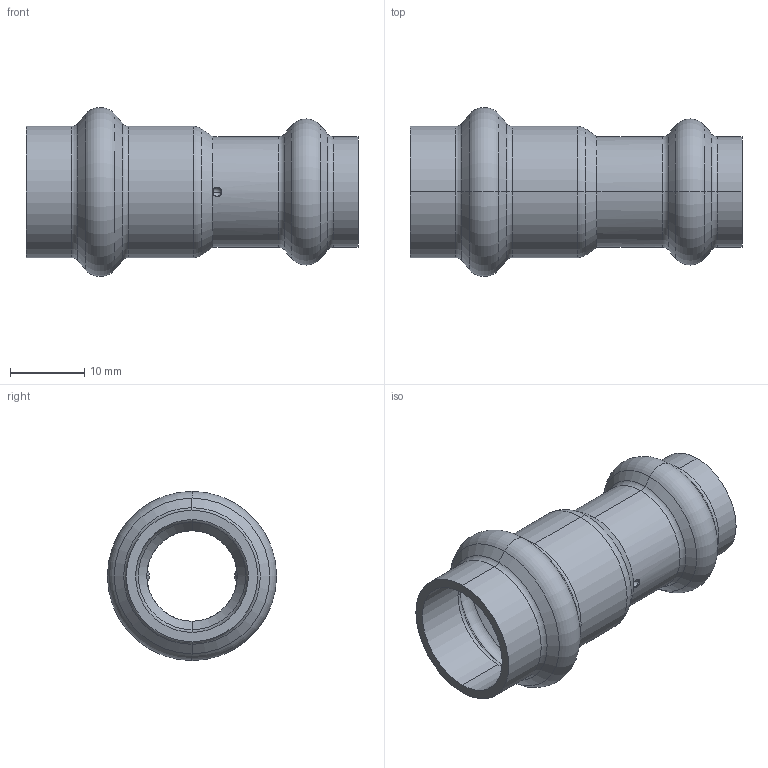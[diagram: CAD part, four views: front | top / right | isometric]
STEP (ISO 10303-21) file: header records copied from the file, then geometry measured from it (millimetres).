
FILE_DESCRIPTION (( 'STEP AP203' ), '1' );
FILE_NAME ('SP5240 15-12.STEP', '2017-04-24T08:36:37', ( '' ), ( '' ), 'SwSTEP 2.0', 'SolidWorks 2016', '' );
FILE_SCHEMA (( 'CONFIG_CONTROL_DESIGN' ));
Length unit declared in the file: millimetre
Products named in the file (1): SP5240 15-12
Bounding box: 44.75 x 22.8 x 22.8 mm (x, y, z)
Volume: 3222.3 mm3; surface area: 5073.5 mm2
Topology: 1 solids, 1 shells, 82 faces, 192 edges, 112 vertices
Faces by surface type: torus 28, cone 24, cylinder 16, sphere 8, plane 6
Entity records: 2529 total; most frequent: CARTESIAN_POINT 517, DIRECTION 466, ORIENTED_EDGE 384, AXIS2_PLACEMENT_3D 213, EDGE_CURVE 192, CIRCLE 130, VERTEX_POINT 112, EDGE_LOOP 84
